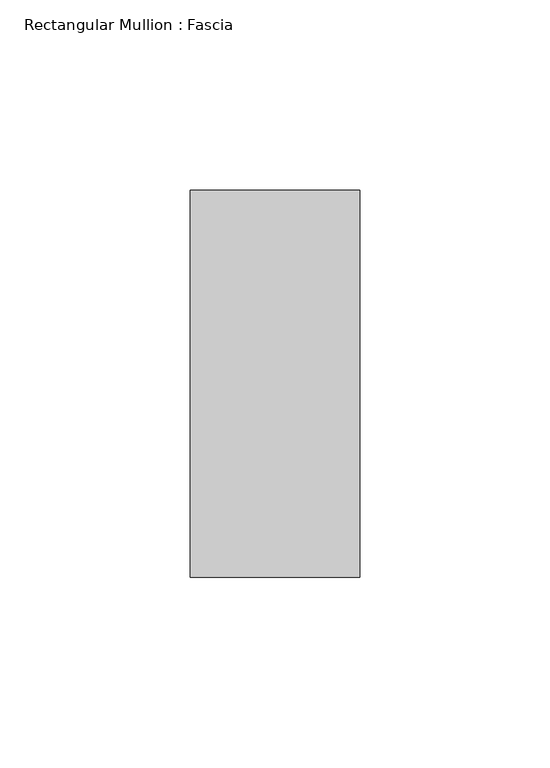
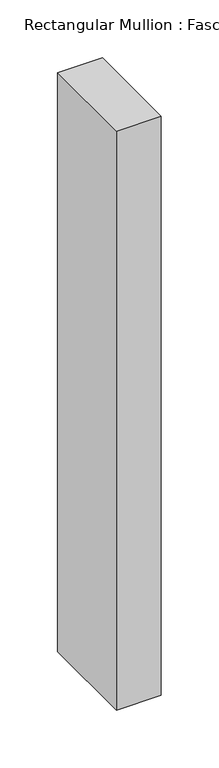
"""IFC4 building model written with IfcOpenShell, lengths in millimetres: member geometry, Rectangular Mullion : Fascia."""

import ifcopenshell
import ifcopenshell.guid

model = None  # the IFC model being written
_history = None  # IfcOwnerHistory: only IFC2X3 demands one
_inside = {}  # id of a spatial element -> (the spatial element, [elements in it])
_under = {}  # id of a project, library or spatial element -> (it, [spatial elements below it])
_declared = {}  # id of a project -> (the project, [libraries it declares])
_typed = {}  # id of a type object -> (the type object, [elements of that type])
_made_of = {}  # id of a material, layer set ... -> (it, [elements and type objects made of it])


def new_model(schema):
    """Start an empty IFC model of exactly this schema.

    Asked for "IFC4X3", IfcOpenShell would pick the latest addendum, in which some entities
    have other attributes; the version numbers below select the first issue.
    IFC2X3 requires an IfcOwnerHistory on every rooted entity: one is made here for all.
    """
    global model, _history
    if schema == "IFC4X3":
        model = ifcopenshell.file(schema_version=(4, 3, 0, 0))
    else:
        model = ifcopenshell.file(schema=schema)
    _inside.clear()
    _under.clear()
    _declared.clear()
    _typed.clear()
    _made_of.clear()
    _history = None
    if model.schema == "IFC2X3":
        org = make("IfcOrganization", Name="unknown")
        user = make(
            "IfcPersonAndOrganization",
            ThePerson=make("IfcPerson", FamilyName="unknown"),
            TheOrganization=org,
        )
        app = make(
            "IfcApplication",
            ApplicationDeveloper=org,
            Version="unknown",
            ApplicationFullName="unknown",
            ApplicationIdentifier="unknown",
        )
        _history = make(
            "IfcOwnerHistory",
            OwningUser=user,
            OwningApplication=app,
            ChangeAction="ADDED",
            CreationDate=0,
        )
    return model


def make(cls, **values):
    """One entity of the class cls with the attributes given. An attribute that is None is left unset."""
    return model.create_entity(
        cls, **{name: value for name, value in values.items() if value is not None}
    )


def rooted(cls, **values):
    """An entity with a GlobalId (a new one), such as an element, a storey or a relation."""
    return make(cls, GlobalId=ifcopenshell.guid.new(), OwnerHistory=_history, **values)


def si_unit(unit_type, name, prefix=None):
    """IfcSIUnit, for example si_unit("LENGTHUNIT", "METRE", prefix="MILLI")."""
    return make("IfcSIUnit", UnitType=unit_type, Prefix=prefix, Name=name)


def assignment(units):
    """IfcUnitAssignment: the units of a project."""
    return None if units is None else make("IfcUnitAssignment", Units=units)


def point(xyz):
    """IfcCartesianPoint."""
    return None if xyz is None else make("IfcCartesianPoint", Coordinates=xyz)


def direction(xyz):
    """IfcDirection."""
    return None if xyz is None else make("IfcDirection", DirectionRatios=xyz)


def frame(location, z_axis=None, x_axis=None):
    """IfcAxis2Placement3D, a coordinate frame: its origin and axes. An axis left out is left unset."""
    return make(
        "IfcAxis2Placement3D",
        Location=point(location),
        Axis=direction(z_axis),
        RefDirection=direction(x_axis),
    )


def origin():
    """The frame at (0, 0, 0) with its axes left unset."""
    return frame((0.0, 0.0, 0.0))


def place(relative_to, where):
    """IfcLocalPlacement: puts the frame where relative to a parent placement (None: the world)."""
    return make(
        "IfcLocalPlacement", PlacementRelTo=relative_to, RelativePlacement=where
    )


def context(
    kind, dimensions, precision=None, world=None, true_north=None, identifier=None
):
    """IfcGeometricRepresentationContext, for example the 3D "Model" context."""
    return make(
        "IfcGeometricRepresentationContext",
        ContextIdentifier=identifier,
        ContextType=kind,
        CoordinateSpaceDimension=dimensions,
        Precision=precision,
        WorldCoordinateSystem=world,
        TrueNorth=true_north,
    )


def project(units=None, contexts=None):
    """IfcProject with its units and contexts."""
    return rooted(
        "IfcProject",
        Name="project",
        RepresentationContexts=contexts,
        UnitsInContext=assignment(units),
    )


def spatial(cls, under=None, at=None, **own):
    """A site, building, storey or space (cls), placed at a placement, below another one or the project."""
    s = rooted(cls, ObjectPlacement=at, **own)
    if under is not None:
        _under.setdefault(under.id(), (under, []))[1].append(s)
    return s


def polyline(points):
    """IfcPolyline through the points."""
    return make("IfcPolyline", Points=[point(p) for p in points])


def outline(outer, holes=None, kind="AREA"):
    """IfcArbitraryClosedProfileDef: a profile drawn as a closed curve; with holes, ...WithVoids."""
    if holes is None:
        return make("IfcArbitraryClosedProfileDef", ProfileType=kind, OuterCurve=outer)
    return make(
        "IfcArbitraryProfileDefWithVoids",
        ProfileType=kind,
        OuterCurve=outer,
        InnerCurves=holes,
    )


def extrude(swept, where, along, depth):
    """IfcExtrudedAreaSolid: the profile swept, set in the frame where, extruded along a direction by depth."""
    return make(
        "IfcExtrudedAreaSolid",
        SweptArea=swept,
        Position=where,
        ExtrudedDirection=direction(along),
        Depth=depth,
    )


def shape(context_of_items, identifier, shape_type, items):
    """IfcShapeRepresentation: the items that make up one representation, for example the "Body"."""
    return make(
        "IfcShapeRepresentation",
        ContextOfItems=context_of_items,
        RepresentationIdentifier=identifier,
        RepresentationType=shape_type,
        Items=items,
    )


def source(mapping_origin, context_of_items, identifier, shape_type, items):
    """IfcRepresentationMap: a shape defined once, which mapped items show again and again."""
    return make(
        "IfcRepresentationMap",
        MappingOrigin=mapping_origin,
        MappedRepresentation=shape(context_of_items, identifier, shape_type, items),
    )


def transform(
    local_origin,
    x_axis=None,
    y_axis=None,
    z_axis=None,
    scale=None,
    scale2=None,
    scale3=None,
    uniform=True,
):
    """IfcCartesianTransformationOperator3D, or its non-uniform kind. x_axis, y_axis, z_axis: its Axis1, 2, 3."""
    if uniform:
        return make(
            "IfcCartesianTransformationOperator3D",
            Axis1=direction(x_axis),
            Axis2=direction(y_axis),
            LocalOrigin=point(local_origin),
            Scale=scale,
            Axis3=direction(z_axis),
        )
    return make(
        "IfcCartesianTransformationOperator3DnonUniform",
        Axis1=direction(x_axis),
        Axis2=direction(y_axis),
        LocalOrigin=point(local_origin),
        Scale=scale,
        Axis3=direction(z_axis),
        Scale2=scale2,
        Scale3=scale3,
    )


def mapped(mapping_source, mapping_target):
    """IfcMappedItem: shows the shape of a source again, moved by a transform."""
    return make(
        "IfcMappedItem", MappingSource=mapping_source, MappingTarget=mapping_target
    )


def made_of(thing, what):
    """Note that an element or type object is made of a material, layer set ...; save() writes the relation."""
    if what is not None:
        _made_of.setdefault(what.id(), (what, []))[1].append(thing)
    return thing


def element(
    cls,
    number,
    at=None,
    inside=None,
    cuts=None,
    type_object=None,
    material=None,
    context=None,
    identifier="Body",
    shape_type=None,
    held_by="IfcProductDefinitionShape",
    body=None,
    shapes=None,
    **own,
):
    """One element of the class cls, such as IfcWall. Its Tag is "e" and its number.

    at: its placement. inside: the storey or other place that contains it. cuts: it is an
    opening in that element (IfcRelVoidsElement). A single representation is given by context,
    identifier, shape_type and body (its items); several are given by shapes. held_by: the class
    of the entity that holds the representations. save() writes the other relations.
    """
    e = rooted(cls, Tag="e%d" % number, ObjectPlacement=at, **own)
    if body is not None:
        shapes = [shape(context, identifier, shape_type, body)]
    if shapes is not None:
        e.Representation = make(held_by, Representations=shapes)
    if inside is not None:
        _inside.setdefault(inside.id(), (inside, []))[1].append(e)
    if cuts is not None:
        rooted(
            "IfcRelVoidsElement", RelatingBuildingElement=cuts, RelatedOpeningElement=e
        )
    if type_object is not None:
        _typed.setdefault(type_object.id(), (type_object, []))[1].append(e)
    return made_of(e, material)


def aggregate(whole, parts):
    """IfcRelAggregates: a whole, such as a stair, and the parts it consists of."""
    return rooted("IfcRelAggregates", RelatingObject=whole, RelatedObjects=parts)


def save(model, path):
    """Write the relations noted so far, then the file.

    IfcRelAggregates (storeys below a building ...), IfcRelContainedInSpatialStructure (elements
    in a storey), IfcRelDefinesByType, IfcRelAssociatesMaterial and IfcRelDeclares: one each for
    every whole, place, type object, material and project.
    """
    for whole, parts in _under.values():
        aggregate(whole, parts)
    for where, things in _inside.values():
        rooted(
            "IfcRelContainedInSpatialStructure",
            RelatedElements=things,
            RelatingStructure=where,
        )
    for kind, things in _typed.values():
        rooted("IfcRelDefinesByType", RelatedObjects=things, RelatingType=kind)
    for what, things in _made_of.values():
        rooted("IfcRelAssociatesMaterial", RelatedObjects=things, RelatingMaterial=what)
    for by, libraries in _declared.values():
        rooted("IfcRelDeclares", RelatingContext=by, RelatedDefinitions=libraries)
    model.write(path)


def rectangular_mullion_fascia_589b878f(model_context):
    return source(origin(), model_context, "Body", "SweptSolid", [
        extrude(outline(polyline([(0.0, 114.3), (0.0, 12.7), (-44.45, 12.7), (-44.45, 114.3), (0.0, 114.3)])), frame((0.0, 0.0, -609.6000003), z_axis=(0.0, 0.0, 1.0), x_axis=(1.0, 0.0, 0.0)), (0.0, 0.0, 1.0), 609.6000003),
    ])


if __name__ == "__main__":
    model = new_model("IFC4")
    model_context = context("Model", 3, world=origin())
    ifc_project = project(units=[si_unit("LENGTHUNIT", "METRE", prefix="MILLI")], contexts=[model_context])
    site = spatial("IfcSite", under=ifc_project)
    building = spatial("IfcBuilding", under=site)
    placement = place(None, origin())
    rectangular_mullion_fascia_shape = rectangular_mullion_fascia_589b878f(model_context)
    element("IfcMember", 1, ObjectType="Rectangular Mullion : Fascia", at=placement, inside=building, context=model_context, shape_type="MappedRepresentation", body=[
        mapped(rectangular_mullion_fascia_shape, transform((0.0, 0.0, 0.0), x_axis=(1.0, 0.0, 0.0), y_axis=(0.0, 1.0, 0.0), z_axis=(0.0, 0.0, 1.0))),
    ])
    save(model, "model.ifc")
